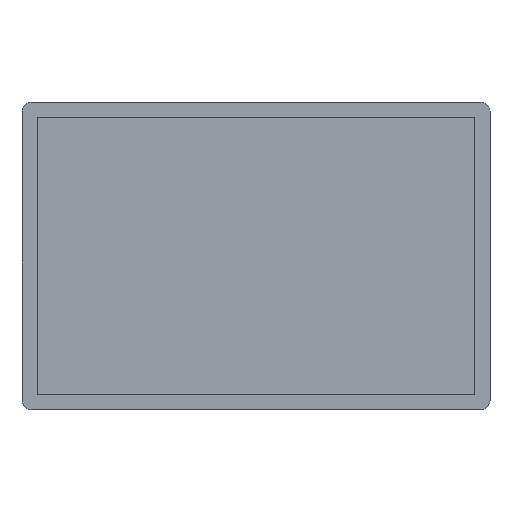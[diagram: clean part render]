
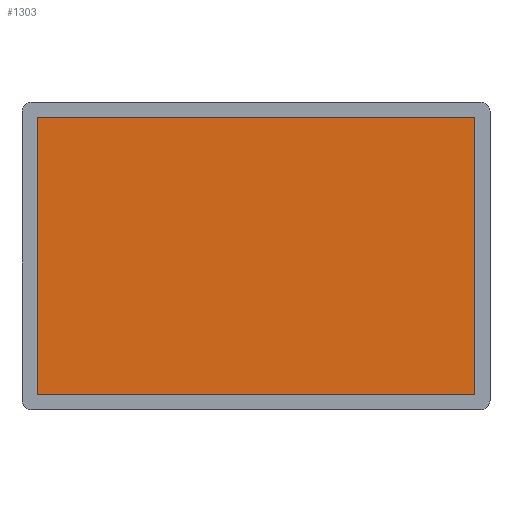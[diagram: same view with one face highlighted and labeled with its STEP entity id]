
A CAD part, top view. The second image highlights one B-rep face of the part: STEP entity #1303.
In plain terms, the highlighted planar face has unit normal (0, 0, 1).
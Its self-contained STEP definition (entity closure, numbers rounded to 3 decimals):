
#358 = PLANE('',#359);
#359 = AXIS2_PLACEMENT_3D('',#360,#361,#362);
#360 = CARTESIAN_POINT('',(-43.,-27.19,2.));
#361 = DIRECTION('',(0.,-1.,0.));
#362 = DIRECTION('',(1.,0.,0.));
#386 = PLANE('',#387);
#387 = AXIS2_PLACEMENT_3D('',#388,#389,#390);
#388 = CARTESIAN_POINT('',(-43.,27.19,2.));
#389 = DIRECTION('',(-1.,0.,0.));
#390 = DIRECTION('',(0.,-1.,0.));
#414 = PLANE('',#415);
#415 = AXIS2_PLACEMENT_3D('',#416,#417,#418);
#416 = CARTESIAN_POINT('',(43.,27.19,2.));
#417 = DIRECTION('',(0.,1.,-0.));
#418 = DIRECTION('',(-1.,0.,0.));
#440 = PLANE('',#441);
#441 = AXIS2_PLACEMENT_3D('',#442,#443,#444);
#442 = CARTESIAN_POINT('',(43.,-27.19,2.));
#443 = DIRECTION('',(1.,0.,0.));
#444 = DIRECTION('',(-0.,1.,0.));
#906 = VERTEX_POINT('',#907);
#907 = CARTESIAN_POINT('',(-43.,-27.19,1.65));
#928 = EDGE_CURVE('',#906,#929,#931,.T.);
#929 = VERTEX_POINT('',#930);
#930 = CARTESIAN_POINT('',(43.,-27.19,1.65));
#931 = SURFACE_CURVE('',#932,(#936,#943),.PCURVE_S1.);
#932 = LINE('',#933,#934);
#933 = CARTESIAN_POINT('',(-43.,-27.19,1.65));
#934 = VECTOR('',#935,1.);
#935 = DIRECTION('',(1.,0.,0.));
#936 = PCURVE('',#358,#937);
#937 = DEFINITIONAL_REPRESENTATION('',(#938),#942);
#938 = LINE('',#939,#940);
#939 = CARTESIAN_POINT('',(0.,-0.35));
#940 = VECTOR('',#941,1.);
#941 = DIRECTION('',(1.,0.));
#942 = ( GEOMETRIC_REPRESENTATION_CONTEXT(2) 
PARAMETRIC_REPRESENTATION_CONTEXT() REPRESENTATION_CONTEXT('2D SPACE',''
  ) );
#943 = PCURVE('',#944,#949);
#944 = PLANE('',#945);
#945 = AXIS2_PLACEMENT_3D('',#946,#947,#948);
#946 = CARTESIAN_POINT('',(0.,0.,1.65));
#947 = DIRECTION('',(0.,0.,1.));
#948 = DIRECTION('',(1.,0.,-0.));
#949 = DEFINITIONAL_REPRESENTATION('',(#950),#954);
#950 = LINE('',#951,#952);
#951 = CARTESIAN_POINT('',(-43.,-27.19));
#952 = VECTOR('',#953,1.);
#953 = DIRECTION('',(1.,0.));
#954 = ( GEOMETRIC_REPRESENTATION_CONTEXT(2) 
PARAMETRIC_REPRESENTATION_CONTEXT() REPRESENTATION_CONTEXT('2D SPACE',''
  ) );
#982 = EDGE_CURVE('',#929,#983,#985,.T.);
#983 = VERTEX_POINT('',#984);
#984 = CARTESIAN_POINT('',(43.,27.19,1.65));
#985 = SURFACE_CURVE('',#986,(#990,#997),.PCURVE_S1.);
#986 = LINE('',#987,#988);
#987 = CARTESIAN_POINT('',(43.,-27.19,1.65));
#988 = VECTOR('',#989,1.);
#989 = DIRECTION('',(0.,1.,0.));
#990 = PCURVE('',#440,#991);
#991 = DEFINITIONAL_REPRESENTATION('',(#992),#996);
#992 = LINE('',#993,#994);
#993 = CARTESIAN_POINT('',(0.,-0.35));
#994 = VECTOR('',#995,1.);
#995 = DIRECTION('',(1.,0.));
#996 = ( GEOMETRIC_REPRESENTATION_CONTEXT(2) 
PARAMETRIC_REPRESENTATION_CONTEXT() REPRESENTATION_CONTEXT('2D SPACE',''
  ) );
#997 = PCURVE('',#944,#998);
#998 = DEFINITIONAL_REPRESENTATION('',(#999),#1003);
#999 = LINE('',#1000,#1001);
#1000 = CARTESIAN_POINT('',(43.,-27.19));
#1001 = VECTOR('',#1002,1.);
#1002 = DIRECTION('',(0.,1.));
#1003 = ( GEOMETRIC_REPRESENTATION_CONTEXT(2) 
PARAMETRIC_REPRESENTATION_CONTEXT() REPRESENTATION_CONTEXT('2D SPACE',''
  ) );
#1031 = EDGE_CURVE('',#983,#1032,#1034,.T.);
#1032 = VERTEX_POINT('',#1033);
#1033 = CARTESIAN_POINT('',(-43.,27.19,1.65));
#1034 = SURFACE_CURVE('',#1035,(#1039,#1046),.PCURVE_S1.);
#1035 = LINE('',#1036,#1037);
#1036 = CARTESIAN_POINT('',(43.,27.19,1.65));
#1037 = VECTOR('',#1038,1.);
#1038 = DIRECTION('',(-1.,0.,0.));
#1039 = PCURVE('',#414,#1040);
#1040 = DEFINITIONAL_REPRESENTATION('',(#1041),#1045);
#1041 = LINE('',#1042,#1043);
#1042 = CARTESIAN_POINT('',(0.,-0.35));
#1043 = VECTOR('',#1044,1.);
#1044 = DIRECTION('',(1.,0.));
#1045 = ( GEOMETRIC_REPRESENTATION_CONTEXT(2) 
PARAMETRIC_REPRESENTATION_CONTEXT() REPRESENTATION_CONTEXT('2D SPACE',''
  ) );
#1046 = PCURVE('',#944,#1047);
#1047 = DEFINITIONAL_REPRESENTATION('',(#1048),#1052);
#1048 = LINE('',#1049,#1050);
#1049 = CARTESIAN_POINT('',(43.,27.19));
#1050 = VECTOR('',#1051,1.);
#1051 = DIRECTION('',(-1.,0.));
#1052 = ( GEOMETRIC_REPRESENTATION_CONTEXT(2) 
PARAMETRIC_REPRESENTATION_CONTEXT() REPRESENTATION_CONTEXT('2D SPACE',''
  ) );
#1080 = EDGE_CURVE('',#1032,#906,#1081,.T.);
#1081 = SURFACE_CURVE('',#1082,(#1086,#1093),.PCURVE_S1.);
#1082 = LINE('',#1083,#1084);
#1083 = CARTESIAN_POINT('',(-43.,27.19,1.65));
#1084 = VECTOR('',#1085,1.);
#1085 = DIRECTION('',(0.,-1.,0.));
#1086 = PCURVE('',#386,#1087);
#1087 = DEFINITIONAL_REPRESENTATION('',(#1088),#1092);
#1088 = LINE('',#1089,#1090);
#1089 = CARTESIAN_POINT('',(0.,-0.35));
#1090 = VECTOR('',#1091,1.);
#1091 = DIRECTION('',(1.,0.));
#1092 = ( GEOMETRIC_REPRESENTATION_CONTEXT(2) 
PARAMETRIC_REPRESENTATION_CONTEXT() REPRESENTATION_CONTEXT('2D SPACE',''
  ) );
#1093 = PCURVE('',#944,#1094);
#1094 = DEFINITIONAL_REPRESENTATION('',(#1095),#1099);
#1095 = LINE('',#1096,#1097);
#1096 = CARTESIAN_POINT('',(-43.,27.19));
#1097 = VECTOR('',#1098,1.);
#1098 = DIRECTION('',(0.,-1.));
#1099 = ( GEOMETRIC_REPRESENTATION_CONTEXT(2) 
PARAMETRIC_REPRESENTATION_CONTEXT() REPRESENTATION_CONTEXT('2D SPACE',''
  ) );
#1303 = ADVANCED_FACE('',(#1304),#944,.T.);
#1304 = FACE_BOUND('',#1305,.T.);
#1305 = EDGE_LOOP('',(#1306,#1307,#1308,#1309));
#1306 = ORIENTED_EDGE('',*,*,#928,.T.);
#1307 = ORIENTED_EDGE('',*,*,#982,.T.);
#1308 = ORIENTED_EDGE('',*,*,#1031,.T.);
#1309 = ORIENTED_EDGE('',*,*,#1080,.T.);
